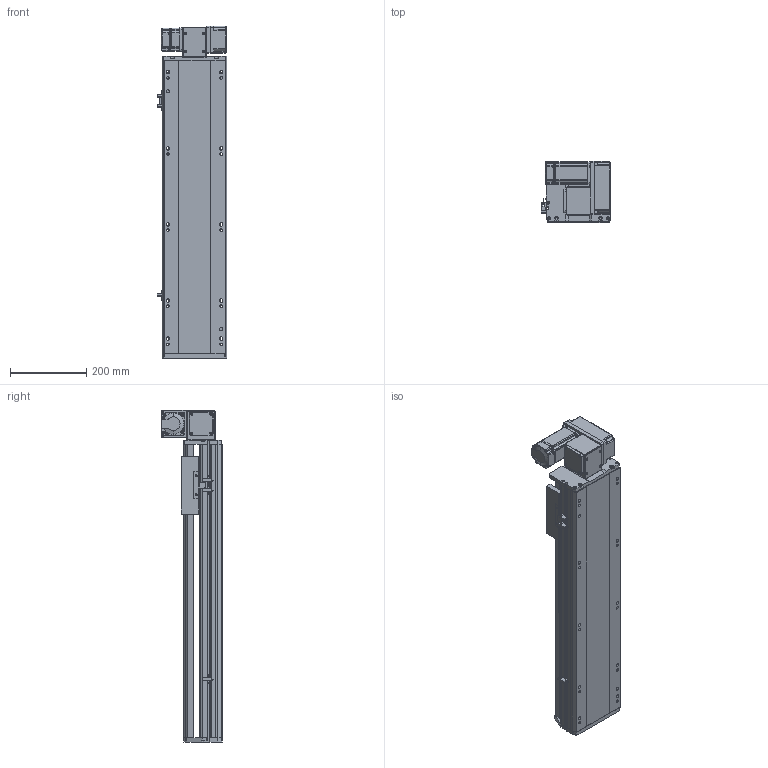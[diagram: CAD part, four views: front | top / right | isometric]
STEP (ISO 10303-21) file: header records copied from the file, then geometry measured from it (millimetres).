
FILE_DESCRIPTION (( 'STEP AP214' ), '1' );
FILE_NAME ('RTB17S-XX-500-RW-M40-C4.STEP', '2025-12-11T08:50:42', ( '' ), ( '' ), 'SwSTEP 2.0', 'SolidWorks 2018', '' );
FILE_SCHEMA (( 'AUTOMOTIVE_DESIGN' ));
Length unit declared in the file: millimetre
Products named in the file (14): RTB14-L-005P--轴承塑胶压盖^RTB17S-RW-皮带座装配-400W_RTB17S-XX-XX-RW-M40-C4; RTB14-L-008-M20--萇儂啣^RTB17S-RW-々湍釱蚾饜-400W_RTB17S-XX-XX-RW-M40-C4; RTB17S-L-004佪裝蹟譫蟀諉釱^RTB17S-XX-XX-RW-M40-C4; OMRON EE-SX672 传感器^RTB17S-XX-XX-RW-M40-C4; 400W侜督萇儂^RTB17S-XX-XX-RW-M40-C4; RTB17S-RW-々湍釱蚾饜-400W^RTB17S-XX-XX-RW-M40-C4; RMP17S-L-014-T20--々湍釱^RTB17S-RW-々湍釱蚾饜-400W_RTB17S-XX-XX-RW-M40-C4; RTH13-BL-012覜茼え俋离^RTB17S-XX-XX-RW-M40-C4; RTB17S-XX-500-RW-M40-C4; RTB17S-L-001耜醱啣^RTB17S-XX-XX-RW-M40-C4; RTB14-L-018P^RTB17S-RW-々湍釱蚾饜-400W_RTB17S-XX-XX-RW-M40-C4; RTB17-R-011菁釱^RTB17S-XX-XX-RW-M40-C4; RTB17S-L-007奻裔^RTB17S-XX-XX-RW-M40-C4; RTB14-L-017P^RTB17S-RW-々湍釱蚾饜-400W_RTB17S-XX-XX-RW-M40-C4
Assembly tree (16 placements, depth 3):
  RTB17S-XX-500-RW-M40-C4
    RTB17-R-011菁釱^RTB17S-XX-XX-RW-M40-C4
    RTB17S-L-007奻裔^RTB17S-XX-XX-RW-M40-C4
    OMRON EE-SX672 传感器^RTB17S-XX-XX-RW-M40-C4  x3
    RTB17S-L-001耜醱啣^RTB17S-XX-XX-RW-M40-C4
    400W侜督萇儂^RTB17S-XX-XX-RW-M40-C4
    RTB17S-L-004佪裝蹟譫蟀諉釱^RTB17S-XX-XX-RW-M40-C4
    RTH13-BL-012覜茼え俋离^RTB17S-XX-XX-RW-M40-C4
    RTB17S-RW-々湍釱蚾饜-400W^RTB17S-XX-XX-RW-M40-C4
      RMP17S-L-014-T20--々湍釱^RTB17S-RW-々湍釱蚾饜-400W_RTB17S-XX-XX-RW-M40-C4
      RTB14-L-005P--轴承塑胶压盖^RTB17S-RW-皮带座装配-400W_RTB17S-XX-XX-RW-M40-C4
      RTB14-L-008-M20--萇儂啣^RTB17S-RW-々湍釱蚾饜-400W_RTB17S-XX-XX-RW-M40-C4
      RTB14-L-017P^RTB17S-RW-々湍釱蚾饜-400W_RTB17S-XX-XX-RW-M40-C4  x2
      RTB14-L-018P^RTB17S-RW-々湍釱蚾饜-400W_RTB17S-XX-XX-RW-M40-C4
Bounding box: 183.5 x 160.5 x 872.5 mm (x, y, z)
Volume: 8294293.3 mm3; surface area: 1054318.5 mm2
Topology: 15 solids, 15 shells, 2173 faces, 5979 edges, 3897 vertices
Faces by surface type: plane 1064, cylinder 661, bspline 301, cone 139, torus 8
Entity records: 61097 total; most frequent: CARTESIAN_POINT 16984, ORIENTED_EDGE 8802, DIRECTION 8216, EDGE_CURVE 4401, VERTEX_POINT 2885, AXIS2_PLACEMENT_3D 2815, LINE 2586, VECTOR 2586
